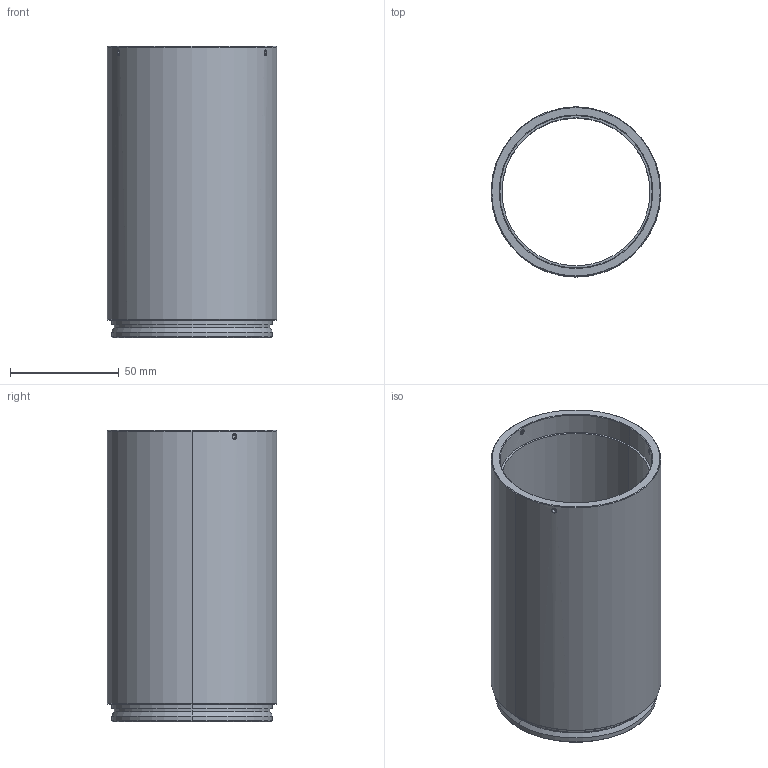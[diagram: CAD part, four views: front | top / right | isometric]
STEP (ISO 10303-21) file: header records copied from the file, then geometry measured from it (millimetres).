
FILE_DESCRIPTION (( 'STEP AP214' ), '1' );
FILE_NAME ('ML-13538-076-EXR-V70V74F.STEP', '2026-02-25T01:05:37', ( '' ), ( '' ), 'SwSTEP 2.0', 'SolidWorks 2025', '' );
FILE_SCHEMA (( 'AUTOMOTIVE_DESIGN' ));
Length unit declared in the file: millimetre
Products named in the file (1): ML-13538-076-EXR-V70V74F
Bounding box: 78 x 78 x 133.73 mm (x, y, z)
Volume: 146641.3 mm3; surface area: 63734.3 mm2
Topology: 1 solids, 1 shells, 86 faces, 202 edges, 127 vertices
Faces by surface type: plane 32, cone 30, cylinder 24
Entity records: 2659 total; most frequent: CARTESIAN_POINT 638, DIRECTION 434, ORIENTED_EDGE 392, EDGE_CURVE 196, AXIS2_PLACEMENT_3D 163, VERTEX_POINT 127, LINE 108, VECTOR 108
